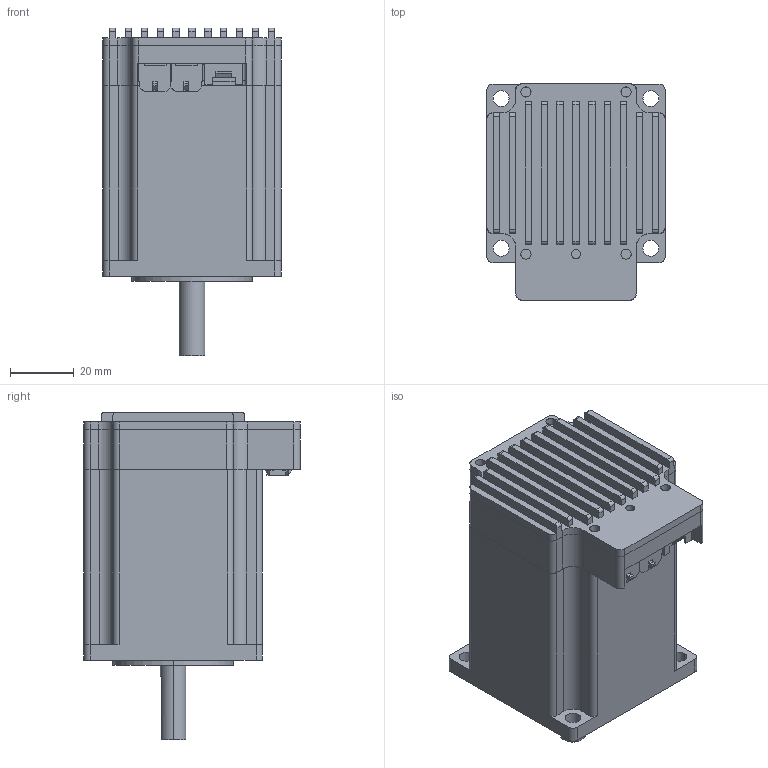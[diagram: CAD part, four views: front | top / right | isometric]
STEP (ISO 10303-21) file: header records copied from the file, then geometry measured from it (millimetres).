
FILE_DESCRIPTION (( 'STEP AP214' ), '1' );
FILE_NAME ('57BLDC_62W_FULL_STEP.STEP', '2023-04-05T04:43:21', ( 'shaun' ), ( '' ), 'SwSTEP 2.0', 'SolidWorks 2020', '' );
FILE_SCHEMA (( 'AUTOMOTIVE_DESIGN' ));
Length unit declared in the file: millimetre
Products named in the file (5): 57BLDC_62W_BODY; 57_B_LOWER_20230325; 57BLDC_62W_FULL_STEP; 57_B_UPPER_20230331; 57_V002_B_BOARD_SIMPLE
Assembly tree (4 placements, depth 2):
  57BLDC_62W_FULL_STEP
    57_B_LOWER_20230325
    57_B_UPPER_20230331
    57_V002_B_BOARD_SIMPLE
    57BLDC_62W_BODY
Bounding box: 56.2 x 68.1 x 103 mm (x, y, z)
Volume: 200528.3 mm3; surface area: 62744.2 mm2
Topology: 207 solids, 207 shells, 2530 faces, 5999 edges, 3936 vertices
Faces by surface type: plane 1329, cylinder 1193, cone 8
Entity records: 100283 total; most frequent: DIRECTION 13485, CARTESIAN_POINT 12483, ORIENTED_EDGE 11998, EDGE_CURVE 5999, AXIS2_PLACEMENT_3D 4952, VERTEX_POINT 3936, VECTOR 3581, LINE 3581
